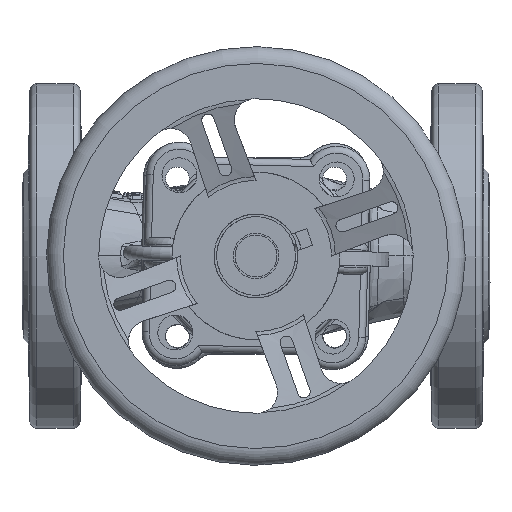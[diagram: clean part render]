
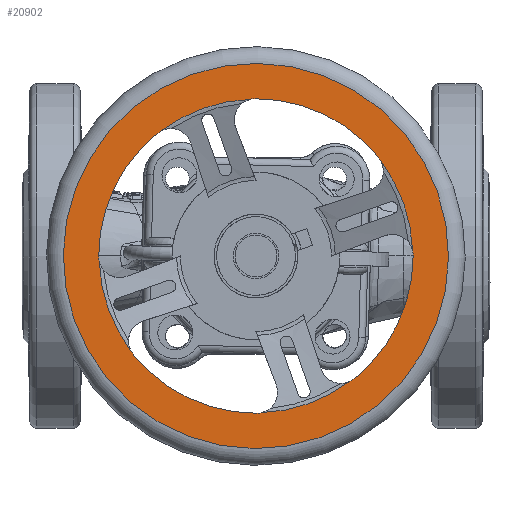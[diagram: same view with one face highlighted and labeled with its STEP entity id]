
A CAD part, left-side view. The second image highlights one B-rep face of the part: STEP entity #20902.
In plain terms, the highlighted planar face has unit normal (-1, 0, 0) as drawn and (0, -1, 0) by its records, which use the part's own axes.
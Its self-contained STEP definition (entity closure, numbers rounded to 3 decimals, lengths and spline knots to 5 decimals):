
#1177=PLANE('',#22331);
#1277=FACE_BOUND('',#5569,.T.);
#4269=FACE_OUTER_BOUND('',#5568,.T.);
#5568=EDGE_LOOP('',(#19517));
#5569=EDGE_LOOP('',(#19518,#19519,#19520,#19521,#19522,#19523,#19524,#19525,
#19526,#19527,#19528,#19529,#19530,#19531,#19532,#19533));
#6284=CIRCLE('',#22217,0.006);
#6289=CIRCLE('',#22225,0.006);
#6291=CIRCLE('',#22228,0.006);
#6296=CIRCLE('',#22236,0.04486);
#6298=CIRCLE('',#22240,0.006);
#6312=CIRCLE('',#22264,0.04486);
#6315=CIRCLE('',#22276,0.04486);
#6316=CIRCLE('',#22281,0.04486);
#6319=CIRCLE('',#22286,0.006);
#6320=CIRCLE('',#22288,0.045);
#6325=CIRCLE('',#22299,0.006);
#6326=CIRCLE('',#22301,0.045);
#6328=CIRCLE('',#22308,0.045);
#6330=CIRCLE('',#22311,0.006);
#6332=CIRCLE('',#22322,0.006);
#6334=CIRCLE('',#22325,0.045);
#6338=CIRCLE('',#22330,0.05511);
#9767=VERTEX_POINT('',#75572);
#9774=VERTEX_POINT('',#75617);
#9784=VERTEX_POINT('',#75660);
#9785=VERTEX_POINT('',#75667);
#9791=VERTEX_POINT('',#75708);
#9792=VERTEX_POINT('',#75715);
#9817=VERTEX_POINT('',#75919);
#9818=VERTEX_POINT('',#75921);
#9849=VERTEX_POINT('',#76143);
#9866=VERTEX_POINT('',#76377);
#9867=VERTEX_POINT('',#76393);
#9868=VERTEX_POINT('',#76394);
#9872=VERTEX_POINT('',#76429);
#9879=VERTEX_POINT('',#76495);
#9880=VERTEX_POINT('',#76520);
#9886=VERTEX_POINT('',#76573);
#9889=VERTEX_POINT('',#76585);
#12934=EDGE_CURVE('',#9767,#9774,#6284,.T.);
#12945=EDGE_CURVE('',#9785,#9784,#6289,.T.);
#12953=EDGE_CURVE('',#9792,#9791,#6291,.T.);
#12972=EDGE_CURVE('',#9784,#9767,#6296,.T.);
#12983=EDGE_CURVE('',#9818,#9817,#6298,.T.);
#13030=EDGE_CURVE('',#9849,#9818,#6312,.T.);
#13058=EDGE_CURVE('',#9791,#9866,#6315,.T.);
#13061=EDGE_CURVE('',#9867,#9868,#6316,.T.);
#13069=EDGE_CURVE('',#9868,#9872,#6319,.T.);
#13071=EDGE_CURVE('',#9872,#9792,#6320,.T.);
#13088=EDGE_CURVE('',#9866,#9879,#6325,.T.);
#13089=EDGE_CURVE('',#9879,#9785,#6326,.T.);
#13097=EDGE_CURVE('',#9774,#9880,#6328,.T.);
#13100=EDGE_CURVE('',#9880,#9849,#6330,.T.);
#13110=EDGE_CURVE('',#9886,#9867,#6332,.T.);
#13114=EDGE_CURVE('',#9817,#9886,#6334,.T.);
#13118=EDGE_CURVE('',#9889,#9889,#6338,.T.);
#19517=ORIENTED_EDGE('',*,*,#13118,.T.);
#19518=ORIENTED_EDGE('',*,*,#13110,.T.);
#19519=ORIENTED_EDGE('',*,*,#13061,.T.);
#19520=ORIENTED_EDGE('',*,*,#13069,.T.);
#19521=ORIENTED_EDGE('',*,*,#13071,.T.);
#19522=ORIENTED_EDGE('',*,*,#12953,.T.);
#19523=ORIENTED_EDGE('',*,*,#13058,.T.);
#19524=ORIENTED_EDGE('',*,*,#13088,.T.);
#19525=ORIENTED_EDGE('',*,*,#13089,.T.);
#19526=ORIENTED_EDGE('',*,*,#12945,.T.);
#19527=ORIENTED_EDGE('',*,*,#12972,.T.);
#19528=ORIENTED_EDGE('',*,*,#12934,.T.);
#19529=ORIENTED_EDGE('',*,*,#13097,.T.);
#19530=ORIENTED_EDGE('',*,*,#13100,.T.);
#19531=ORIENTED_EDGE('',*,*,#13030,.T.);
#19532=ORIENTED_EDGE('',*,*,#12983,.T.);
#19533=ORIENTED_EDGE('',*,*,#13114,.T.);
#20902=ADVANCED_FACE('',(#4269,#1277),#1177,.T.);
#22217=AXIS2_PLACEMENT_3D('',#75619,#25441,#25442);
#22225=AXIS2_PLACEMENT_3D('',#75668,#25457,#25458);
#22228=AXIS2_PLACEMENT_3D('',#75716,#25465,#25466);
#22236=AXIS2_PLACEMENT_3D('',#75838,#25485,#25486);
#22240=AXIS2_PLACEMENT_3D('',#75922,#25497,#25498);
#22264=AXIS2_PLACEMENT_3D('',#76144,#25561,#25562);
#22276=AXIS2_PLACEMENT_3D('',#76386,#25591,#25592);
#22281=AXIS2_PLACEMENT_3D('',#76395,#25603,#25604);
#22286=AXIS2_PLACEMENT_3D('',#76431,#25614,#25615);
#22288=AXIS2_PLACEMENT_3D('',#76434,#25619,#25620);
#22299=AXIS2_PLACEMENT_3D('',#76497,#25645,#25646);
#22301=AXIS2_PLACEMENT_3D('',#76499,#25649,#25650);
#22308=AXIS2_PLACEMENT_3D('',#76521,#25665,#25666);
#22311=AXIS2_PLACEMENT_3D('',#76526,#25672,#25673);
#22322=AXIS2_PLACEMENT_3D('',#76574,#25697,#25698);
#22325=AXIS2_PLACEMENT_3D('',#76580,#25705,#25706);
#22330=AXIS2_PLACEMENT_3D('',#76587,#25715,#25716);
#22331=AXIS2_PLACEMENT_3D('',#76588,#25717,#25718);
#25441=DIRECTION('center_axis',(0.,1.,0.));
#25442=DIRECTION('ref_axis',(-0.995,0.,0.105));
#25457=DIRECTION('center_axis',(0.,1.,0.));
#25458=DIRECTION('ref_axis',(-0.945,0.,-0.328));
#25465=DIRECTION('center_axis',(0.,1.,0.));
#25466=DIRECTION('ref_axis',(0.328,0.,-0.945));
#25485=DIRECTION('center_axis',(0.,1.,0.));
#25486=DIRECTION('ref_axis',(-0.954,0.,-0.299));
#25497=DIRECTION('center_axis',(0.,1.,0.));
#25498=DIRECTION('ref_axis',(0.105,0.,0.995));
#25561=DIRECTION('center_axis',(0.,1.,0.));
#25562=DIRECTION('ref_axis',(-0.299,0.,0.954));
#25591=DIRECTION('center_axis',(0.,1.,0.));
#25592=DIRECTION('ref_axis',(0.299,0.,-0.954));
#25603=DIRECTION('center_axis',(0.,1.,0.));
#25604=DIRECTION('ref_axis',(0.954,0.,0.299));
#25614=DIRECTION('center_axis',(0.,1.,0.));
#25615=DIRECTION('ref_axis',(0.995,0.,-0.105));
#25619=DIRECTION('center_axis',(0.,1.,0.));
#25620=DIRECTION('ref_axis',(0.945,0.,-0.328));
#25645=DIRECTION('center_axis',(0.,1.,0.));
#25646=DIRECTION('ref_axis',(-0.105,0.,-0.995));
#25649=DIRECTION('center_axis',(0.,1.,0.));
#25650=DIRECTION('ref_axis',(-0.328,0.,-0.945));
#25665=DIRECTION('center_axis',(0.,1.,0.));
#25666=DIRECTION('ref_axis',(-0.945,0.,0.328));
#25672=DIRECTION('center_axis',(0.,1.,0.));
#25673=DIRECTION('ref_axis',(-0.328,0.,0.945));
#25697=DIRECTION('center_axis',(0.,1.,0.));
#25698=DIRECTION('ref_axis',(0.945,0.,0.328));
#25705=DIRECTION('center_axis',(0.,1.,0.));
#25706=DIRECTION('ref_axis',(0.328,0.,0.945));
#25715=DIRECTION('center_axis',(0.,-1.,0.));
#25716=DIRECTION('ref_axis',(-1.,0.,0.));
#25717=DIRECTION('center_axis',(0.,-1.,0.));
#25718=DIRECTION('ref_axis',(0.,0.,-1.));
#75572=CARTESIAN_POINT('',(-0.04283,-0.00721,0.01343));
#75617=CARTESIAN_POINT('',(-0.04254,-0.00721,0.01477));
#75619=CARTESIAN_POINT('Origin',(-0.03687,-0.00721,
0.0128));
#75660=CARTESIAN_POINT('',(-0.04283,-0.00721,-0.01343));
#75667=CARTESIAN_POINT('',(-0.04254,-0.00721,-0.01477));
#75668=CARTESIAN_POINT('Origin',(-0.03687,-0.00721,
-0.0128));
#75708=CARTESIAN_POINT('',(0.0134,-0.00721,-0.04281));
#75715=CARTESIAN_POINT('',(0.01474,-0.00721,-0.04251));
#75716=CARTESIAN_POINT('Origin',(0.01277,-0.00721,
-0.03684));
#75838=CARTESIAN_POINT('Origin',(-0.00003,-0.00721,
0.));
#75919=CARTESIAN_POINT('',(0.01474,-0.00721,0.04251));
#75921=CARTESIAN_POINT('',(0.0134,-0.00721,0.04281));
#75922=CARTESIAN_POINT('Origin',(0.01277,-0.00721,
0.03684));
#76143=CARTESIAN_POINT('',(-0.01346,-0.00721,0.04281));
#76144=CARTESIAN_POINT('Origin',(-0.00003,-0.00721,
0.));
#76377=CARTESIAN_POINT('',(-0.01346,-0.00721,-0.04281));
#76386=CARTESIAN_POINT('Origin',(-0.00003,-0.00721,
0.));
#76393=CARTESIAN_POINT('',(0.04278,-0.00721,0.01343));
#76394=CARTESIAN_POINT('',(0.04278,-0.00721,-0.01343));
#76395=CARTESIAN_POINT('Origin',(-0.00003,-0.00721,
0.));
#76429=CARTESIAN_POINT('',(0.04248,-0.00721,-0.01477));
#76431=CARTESIAN_POINT('Origin',(0.03681,-0.00721,
-0.0128));
#76434=CARTESIAN_POINT('Origin',(-0.00003,-0.00721,
0.));
#76495=CARTESIAN_POINT('',(-0.0148,-0.00721,-0.04251));
#76497=CARTESIAN_POINT('Origin',(-0.01283,-0.00721,
-0.03684));
#76499=CARTESIAN_POINT('Origin',(-0.00003,-0.00721,
0.));
#76520=CARTESIAN_POINT('',(-0.0148,-0.00721,0.04251));
#76521=CARTESIAN_POINT('Origin',(-0.00003,-0.00721,
0.));
#76526=CARTESIAN_POINT('Origin',(-0.01283,-0.00721,
0.03684));
#76573=CARTESIAN_POINT('',(0.04248,-0.00721,0.01477));
#76574=CARTESIAN_POINT('Origin',(0.03681,-0.00721,
0.0128));
#76580=CARTESIAN_POINT('Origin',(-0.00003,-0.00721,
0.));
#76585=CARTESIAN_POINT('',(0.05508,-0.00721,0.));
#76587=CARTESIAN_POINT('Origin',(-0.00003,-0.00721,
0.));
#76588=CARTESIAN_POINT('Origin',(-0.00003,-0.00721,
0.05511));
